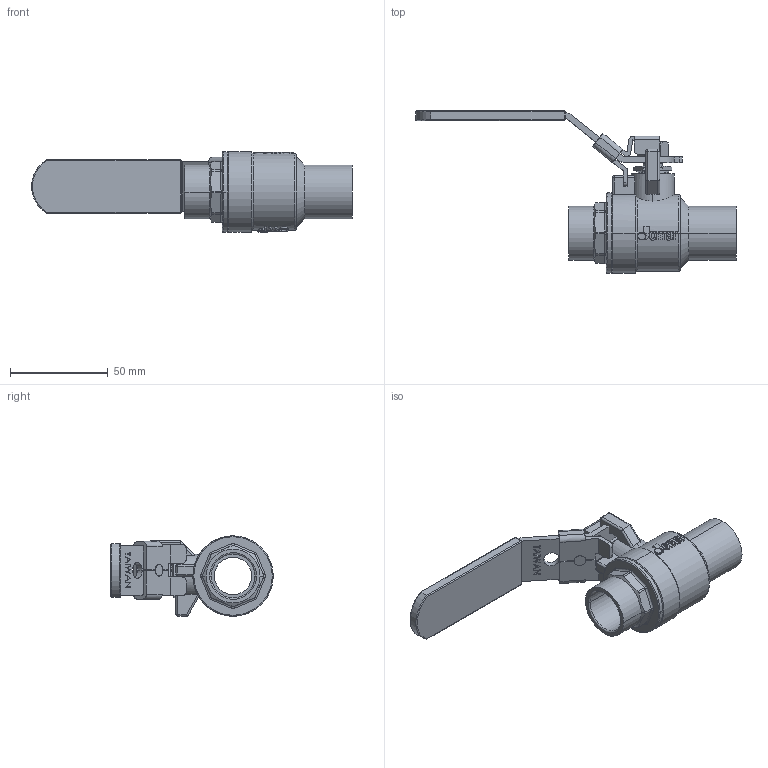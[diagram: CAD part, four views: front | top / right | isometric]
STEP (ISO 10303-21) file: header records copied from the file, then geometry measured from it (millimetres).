
FILE_DESCRIPTION (( 'STEP AP203' ), '1' );
FILE_NAME ('ABL754-有掛鎖--0.75''''JOMAR球閥體-CxC組合-無鉛.STEP', '2025-12-15T08:22:26', ( '' ), ( '' ), 'SwSTEP 2.0', 'SolidWorks 2018', '' );
FILE_SCHEMA (( 'CONFIG_CONTROL_DESIGN' ));
Length unit declared in the file: millimetre
Products named in the file (14): BBL714-0.75''''JOMAR球閥體-CxC-無鉛無插溝; EBL205A; EBL104; TBL264A; GBL205 (組裝); BBL714A-0.75''''JOMAR²y»Ö-CxC´U»\-µL¹]µL´¡·¾; NBL265; DN20-CBL215; EBL205B; DN20-CBL744-掛鎖把手組合; ABL754-有掛鎖--0.75''''JOMAR球閥體-CxC組合-無鉛; DN20 & DN25-CBL744-白色膠套-T&G-200CSSG-LH; DN20-掛鎖; RBL264
Assembly tree (14 placements, depth 3):
  ABL754-有掛鎖--0.75''''JOMAR球閥體-CxC組合-無鉛
    BBL714-0.75''''JOMAR球閥體-CxC-無鉛無插溝
    RBL264
    EBL205A
    EBL205B
    GBL205 (組裝)
    TBL264A
    BBL714A-0.75''''JOMAR²y»Ö-CxC´U»\-µL¹]µL´¡·¾
    EBL104  x2
    NBL265
    DN20-CBL744-掛鎖把手組合
      DN20-CBL215
      DN20-掛鎖
    DN20 & DN25-CBL744-白色膠套-T&G-200CSSG-LH
Bounding box: 163.7 x 82.91 x 41 mm (x, y, z)
Volume: 69599.8 mm3; surface area: 57072.6 mm2
Topology: 13 solids, 13 shells, 2301 faces, 6155 edges, 4053 vertices
Faces by surface type: plane 1254, bspline 654, cylinder 282, cone 63, torus 30, sphere 18
Entity records: 111439 total; most frequent: CARTESIAN_POINT 57709, ORIENTED_EDGE 12230, DIRECTION 8287, EDGE_CURVE 6115, VERTEX_POINT 4035, LINE 3895, VECTOR 3895, EDGE_LOOP 2500
